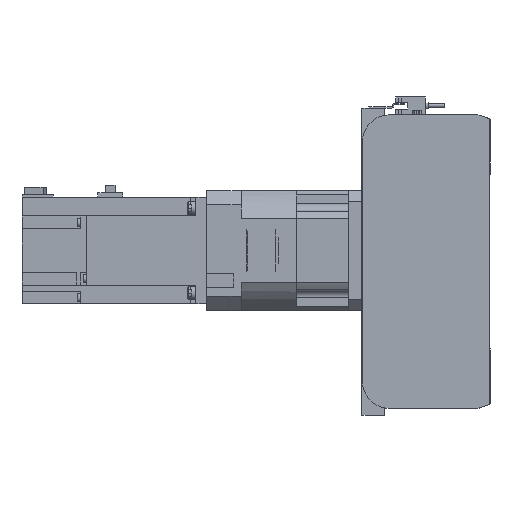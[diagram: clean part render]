
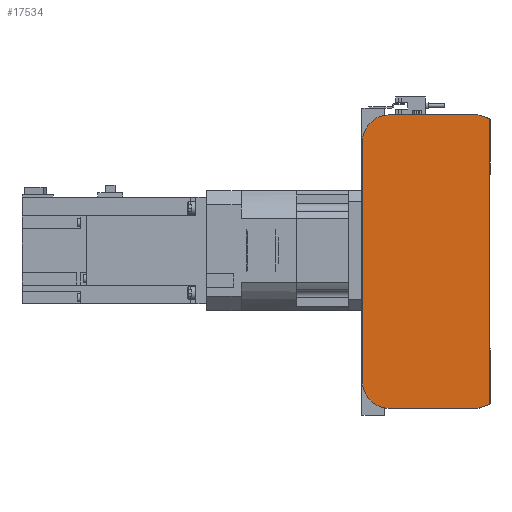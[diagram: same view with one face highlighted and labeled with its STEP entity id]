
A CAD part, left-side view. The second image highlights one B-rep face of the part: STEP entity #17534.
In plain terms, the highlighted planar face has unit normal (-1, 0, 0).
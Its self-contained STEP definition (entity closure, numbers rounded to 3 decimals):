
#992=CIRCLE('',#19122,20.);
#993=CIRCLE('',#19125,20.);
#4442=ORIENTED_EDGE('',*,*,#7624,.F.);
#4443=ORIENTED_EDGE('',*,*,#7666,.F.);
#4444=ORIENTED_EDGE('',*,*,#7664,.F.);
#4445=ORIENTED_EDGE('',*,*,#7662,.F.);
#4446=ORIENTED_EDGE('',*,*,#7651,.F.);
#4447=ORIENTED_EDGE('',*,*,#7642,.F.);
#4448=ORIENTED_EDGE('',*,*,#7638,.F.);
#4449=ORIENTED_EDGE('',*,*,#7635,.F.);
#7624=EDGE_CURVE('',#9559,#9560,#11131,.T.);
#7635=EDGE_CURVE('',#9560,#9567,#11142,.T.);
#7638=EDGE_CURVE('',#9567,#9569,#11145,.T.);
#7642=EDGE_CURVE('',#9569,#9570,#11149,.T.);
#7651=EDGE_CURVE('',#9570,#9576,#11158,.T.);
#7662=EDGE_CURVE('',#9576,#9583,#992,.T.);
#7664=EDGE_CURVE('',#9583,#9584,#11170,.T.);
#7666=EDGE_CURVE('',#9584,#9559,#993,.T.);
#9559=VERTEX_POINT('',#28840);
#9560=VERTEX_POINT('',#28842);
#9567=VERTEX_POINT('',#28861);
#9569=VERTEX_POINT('',#28867);
#9570=VERTEX_POINT('',#28873);
#9576=VERTEX_POINT('',#28889);
#9583=VERTEX_POINT('',#28908);
#9584=VERTEX_POINT('',#28912);
#11131=LINE('',#28841,#12698);
#11142=LINE('',#28860,#12709);
#11145=LINE('',#28866,#12712);
#11149=LINE('',#28872,#12716);
#11158=LINE('',#28888,#12725);
#11170=LINE('',#28911,#12737);
#12698=VECTOR('',#23213,1000.);
#12709=VECTOR('',#23226,1000.);
#12712=VECTOR('',#23231,1000.);
#12716=VECTOR('',#23237,1000.);
#12725=VECTOR('',#23248,1000.);
#12737=VECTOR('',#23266,1000.);
#14122=EDGE_LOOP('',(#4442,#4443,#4444,#4445,#4446,#4447,#4448,#4449));
#15674=FACE_BOUND('',#14122,.T.);
#16665=PLANE('',#19126);
#17534=ADVANCED_FACE('',(#15674),#16665,.F.);
#19122=AXIS2_PLACEMENT_3D('',#28907,#23261,#23262);
#19125=AXIS2_PLACEMENT_3D('',#28915,#23270,#23271);
#19126=AXIS2_PLACEMENT_3D('',#28916,#23272,#23273);
#23213=DIRECTION('',(0.,-1.,0.));
#23226=DIRECTION('',(0.,-0.945,-0.328));
#23231=DIRECTION('',(0.,0.,-1.));
#23237=DIRECTION('',(0.,0.945,-0.328));
#23248=DIRECTION('',(0.,1.,0.));
#23261=DIRECTION('',(1.,0.,0.));
#23262=DIRECTION('',(0.,0.,-1.));
#23266=DIRECTION('',(0.,0.,1.));
#23270=DIRECTION('',(1.,0.,0.));
#23271=DIRECTION('',(0.,0.,-1.));
#23272=DIRECTION('',(1.,0.,0.));
#23273=DIRECTION('',(0.,0.,-1.));
#28840=CARTESIAN_POINT('',(0.,75.5,110.));
#28841=CARTESIAN_POINT('',(0.,75.5,110.));
#28842=CARTESIAN_POINT('',(0.,9.,110.));
#28860=CARTESIAN_POINT('',(0.,9.,110.));
#28861=CARTESIAN_POINT('',(0.,0.5,107.05));
#28866=CARTESIAN_POINT('',(0.,0.5,107.05));
#28867=CARTESIAN_POINT('',(0.,0.5,-107.05));
#28872=CARTESIAN_POINT('',(0.,0.5,-107.05));
#28873=CARTESIAN_POINT('',(0.,9.,-110.));
#28888=CARTESIAN_POINT('',(0.,9.,-110.));
#28889=CARTESIAN_POINT('',(0.,75.5,-110.));
#28907=CARTESIAN_POINT('',(0.,75.5,-90.));
#28908=CARTESIAN_POINT('',(0.,95.5,-90.));
#28911=CARTESIAN_POINT('',(0.,95.5,-90.));
#28912=CARTESIAN_POINT('',(0.,95.5,90.));
#28915=CARTESIAN_POINT('',(0.,75.5,90.));
#28916=CARTESIAN_POINT('',(0.,75.5,-90.));
